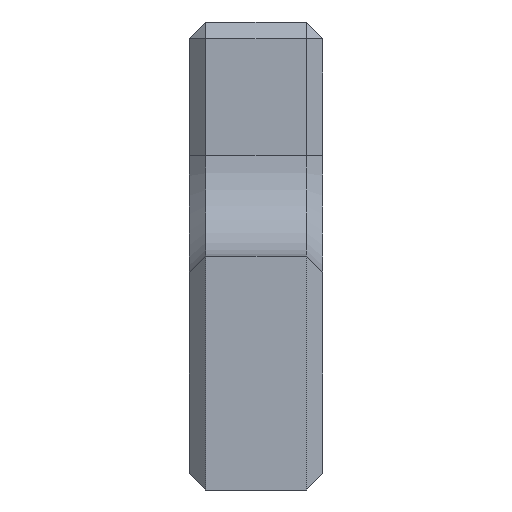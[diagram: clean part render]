
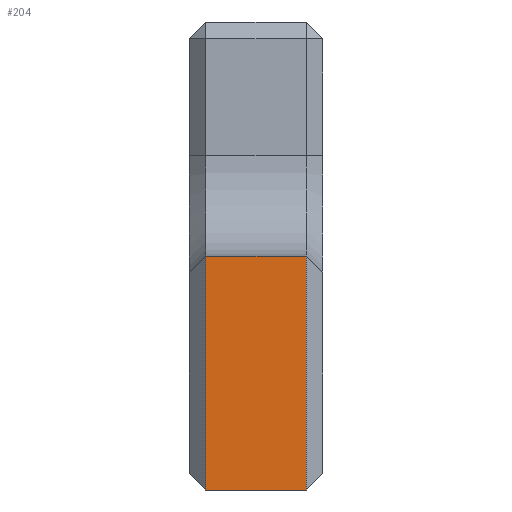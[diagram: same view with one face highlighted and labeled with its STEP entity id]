
A CAD part, left-side view. The second image highlights one B-rep face of the part: STEP entity #204.
In plain terms, the highlighted planar face has unit normal (-1, 0, 0).
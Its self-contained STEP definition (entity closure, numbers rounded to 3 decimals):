
#27 = DIRECTION ( 'NONE',  ( 0., 0., 1. ) ) ;
#62 = VERTEX_POINT ( 'NONE', #862 ) ;
#91 = CARTESIAN_POINT ( 'NONE',  ( 0., 3.5, -7. ) ) ;
#110 = DIRECTION ( 'NONE',  ( 0., -1., 0. ) ) ;
#131 = DIRECTION ( 'NONE',  ( 0., 0., -1. ) ) ;
#158 = EDGE_CURVE ( 'NONE', #426, #62, #618, .T. ) ;
#183 = ORIENTED_EDGE ( 'NONE', *, *, #689, .T. ) ;
#204 = ADVANCED_FACE ( 'NONE', ( #1247 ), #691, .F. ) ;
#235 = VERTEX_POINT ( 'NONE', #554 ) ;
#290 = EDGE_CURVE ( 'NONE', #235, #426, #1397, .T. ) ;
#426 = VERTEX_POINT ( 'NONE', #91 ) ;
#431 = DIRECTION ( 'NONE',  ( 0., 0., -1. ) ) ;
#440 = LINE ( 'NONE', #702, #1281 ) ;
#467 = CARTESIAN_POINT ( 'NONE',  ( 0., 4., -7. ) ) ;
#499 = VERTEX_POINT ( 'NONE', #607 ) ;
#522 = VECTOR ( 'NONE', #431, 1000. ) ;
#554 = CARTESIAN_POINT ( 'NONE',  ( 0., 3.5, 0. ) ) ;
#607 = CARTESIAN_POINT ( 'NONE',  ( 0., 0.5, 0. ) ) ;
#618 = LINE ( 'NONE', #1099, #1163 ) ;
#656 = AXIS2_PLACEMENT_3D ( 'NONE', #467, #809, #131 ) ;
#667 = DIRECTION ( 'NONE',  ( 0., -1., 0. ) ) ;
#689 = EDGE_CURVE ( 'NONE', #62, #499, #440, .T. ) ;
#691 = PLANE ( 'NONE',  #656 ) ;
#702 = CARTESIAN_POINT ( 'NONE',  ( 0., 0.5, -7. ) ) ;
#735 = EDGE_LOOP ( 'NONE', ( #1030, #183, #1361, #1390 ) ) ;
#785 = CARTESIAN_POINT ( 'NONE',  ( 0., 4., 0. ) ) ;
#809 = DIRECTION ( 'NONE',  ( 1., 0., 0. ) ) ;
#862 = CARTESIAN_POINT ( 'NONE',  ( 0., 0.5, -7. ) ) ;
#977 = CARTESIAN_POINT ( 'NONE',  ( 0., 3.5, -7. ) ) ;
#1003 = VECTOR ( 'NONE', #110, 1000. ) ;
#1030 = ORIENTED_EDGE ( 'NONE', *, *, #158, .T. ) ;
#1099 = CARTESIAN_POINT ( 'NONE',  ( 0., 4., -7. ) ) ;
#1163 = VECTOR ( 'NONE', #667, 1000. ) ;
#1190 = EDGE_CURVE ( 'NONE', #235, #499, #1258, .T. ) ;
#1247 = FACE_OUTER_BOUND ( 'NONE', #735, .T. ) ;
#1258 = LINE ( 'NONE', #785, #1003 ) ;
#1281 = VECTOR ( 'NONE', #27, 1000. ) ;
#1361 = ORIENTED_EDGE ( 'NONE', *, *, #1190, .F. ) ;
#1390 = ORIENTED_EDGE ( 'NONE', *, *, #290, .T. ) ;
#1397 = LINE ( 'NONE', #977, #522 ) ;
